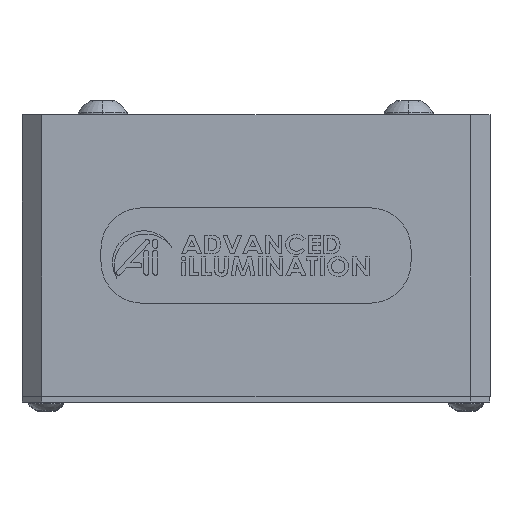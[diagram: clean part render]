
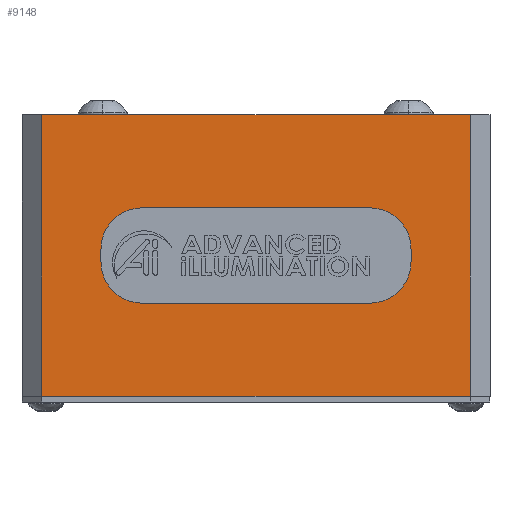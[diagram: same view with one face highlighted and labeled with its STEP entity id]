
A CAD part, top view. The second image highlights one B-rep face of the part: STEP entity #9148.
In plain terms, the highlighted planar face has unit normal (0, 0, 1).
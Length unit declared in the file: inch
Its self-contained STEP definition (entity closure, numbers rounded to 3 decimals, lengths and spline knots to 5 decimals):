
#950 = CARTESIAN_POINT ( 'NONE',  ( 1.415, -0.85, 1.415 ) ) ;
#1178 = VERTEX_POINT ( 'NONE', #11022 ) ;
#3261 = VECTOR ( 'NONE', #27846, 39.37008 ) ;
#3263 = EDGE_LOOP ( 'NONE', ( #19355, #15762, #13433, #14635 ) ) ;
#3534 = VECTOR ( 'NONE', #14160, 39.37008 ) ;
#4327 = PLANE ( 'NONE',  #18833 ) ;
#5444 = DIRECTION ( 'NONE',  ( -1., 0., 0. ) ) ;
#5771 = CARTESIAN_POINT ( 'NONE',  ( 1.295, -0.85, 1.415 ) ) ;
#6175 = VERTEX_POINT ( 'NONE', #21057 ) ;
#6703 = CARTESIAN_POINT ( 'NONE',  ( 1.295, -0.85, 1.415 ) ) ;
#7119 = LINE ( 'NONE', #25076, #20917 ) ;
#7743 = LINE ( 'NONE', #6703, #3534 ) ;
#7884 = VECTOR ( 'NONE', #21343, 39.37008 ) ;
#9043 = CARTESIAN_POINT ( 'NONE',  ( 1.415, -0.85, 1.415 ) ) ;
#9148 = ADVANCED_FACE ( 'NONE', ( #31501 ), #4327, .T. ) ;
#9250 = DIRECTION ( 'NONE',  ( 0., 0., 1. ) ) ;
#10774 = CARTESIAN_POINT ( 'NONE',  ( -1.295, -0.85, 1.415 ) ) ;
#11022 = CARTESIAN_POINT ( 'NONE',  ( -1.295, 0.85, 1.415 ) ) ;
#12803 = EDGE_CURVE ( 'NONE', #30651, #18210, #22746, .T. ) ;
#13433 = ORIENTED_EDGE ( 'NONE', *, *, #12803, .F. ) ;
#13863 = CARTESIAN_POINT ( 'NONE',  ( -1.295, -0.85, 1.415 ) ) ;
#14160 = DIRECTION ( 'NONE',  ( 0., 1., 0. ) ) ;
#14635 = ORIENTED_EDGE ( 'NONE', *, *, #16204, .T. ) ;
#15762 = ORIENTED_EDGE ( 'NONE', *, *, #26071, .T. ) ;
#16204 = EDGE_CURVE ( 'NONE', #30651, #6175, #7743, .T. ) ;
#17755 = LINE ( 'NONE', #13863, #7884 ) ;
#18210 = VERTEX_POINT ( 'NONE', #10774 ) ;
#18524 = EDGE_CURVE ( 'NONE', #6175, #1178, #7119, .T. ) ;
#18833 = AXIS2_PLACEMENT_3D ( 'NONE', #9043, #9250, #23773 ) ;
#19355 = ORIENTED_EDGE ( 'NONE', *, *, #18524, .T. ) ;
#20917 = VECTOR ( 'NONE', #5444, 39.37008 ) ;
#21057 = CARTESIAN_POINT ( 'NONE',  ( 1.295, 0.85, 1.415 ) ) ;
#21343 = DIRECTION ( 'NONE',  ( 0., -1., 0. ) ) ;
#22746 = LINE ( 'NONE', #950, #3261 ) ;
#23773 = DIRECTION ( 'NONE',  ( 1., 0., 0. ) ) ;
#25076 = CARTESIAN_POINT ( 'NONE',  ( 1.415, 0.85, 1.415 ) ) ;
#26071 = EDGE_CURVE ( 'NONE', #1178, #18210, #17755, .T. ) ;
#27846 = DIRECTION ( 'NONE',  ( -1., 0., 0. ) ) ;
#30651 = VERTEX_POINT ( 'NONE', #5771 ) ;
#31501 = FACE_OUTER_BOUND ( 'NONE', #3263, .T. ) ;
